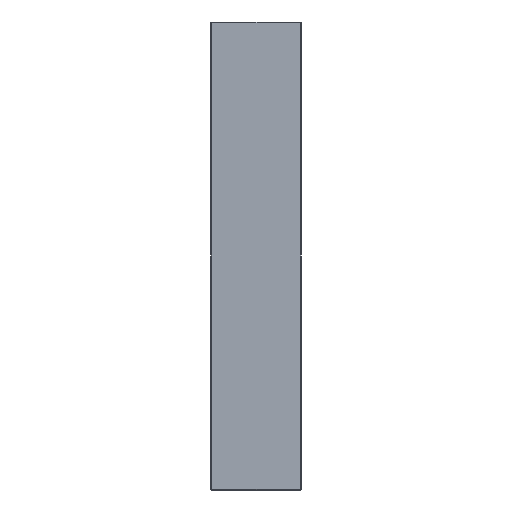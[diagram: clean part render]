
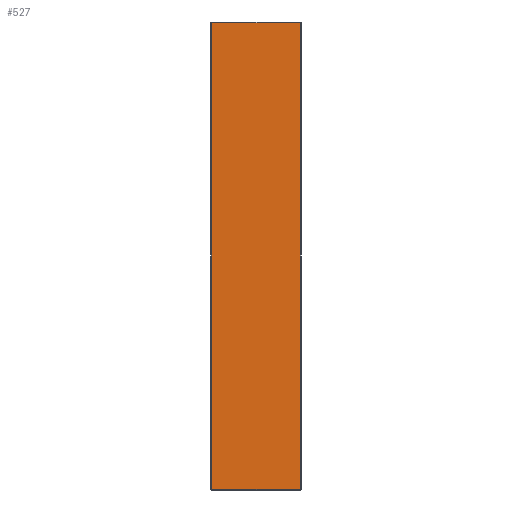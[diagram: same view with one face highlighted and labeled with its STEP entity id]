
A CAD part, left-side view. The second image highlights one B-rep face of the part: STEP entity #527.
In plain terms, the highlighted planar face has unit normal (-1, 0, 0).
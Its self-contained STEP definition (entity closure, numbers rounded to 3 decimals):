
#91 = CARTESIAN_POINT ( 'NONE',  ( -198., 96., 248. ) ) ;
#139 = ORIENTED_EDGE ( 'NONE', *, *, #1395, .T. ) ;
#262 = AXIS2_PLACEMENT_3D ( 'NONE', #91, #921, #1056 ) ;
#324 = VECTOR ( 'NONE', #1417, 1000. ) ;
#372 = VECTOR ( 'NONE', #593, 1000. ) ;
#382 = DIRECTION ( 'NONE',  ( 0., 0., -1. ) ) ;
#445 = PLANE ( 'NONE',  #262 ) ;
#449 = EDGE_CURVE ( 'NONE', #1062, #1850, #1341, .T. ) ;
#467 = ORIENTED_EDGE ( 'NONE', *, *, #496, .T. ) ;
#496 = EDGE_CURVE ( 'NONE', #837, #1062, #1573, .T. ) ;
#527 = ADVANCED_FACE ( 'NONE', ( #1817 ), #445, .F. ) ;
#562 = CARTESIAN_POINT ( 'NONE',  ( -198., 96., -247. ) ) ;
#593 = DIRECTION ( 'NONE',  ( 0., -1., 0. ) ) ;
#634 = VERTEX_POINT ( 'NONE', #1550 ) ;
#817 = LINE ( 'NONE', #1548, #324 ) ;
#820 = ORIENTED_EDGE ( 'NONE', *, *, #449, .T. ) ;
#837 = VERTEX_POINT ( 'NONE', #1757 ) ;
#921 = DIRECTION ( 'NONE',  ( 1., 0., 0. ) ) ;
#927 = VECTOR ( 'NONE', #1370, 1000. ) ;
#939 = EDGE_CURVE ( 'NONE', #634, #837, #1402, .T. ) ;
#1048 = EDGE_LOOP ( 'NONE', ( #139, #1488, #467, #820 ) ) ;
#1056 = DIRECTION ( 'NONE',  ( 0., 0., -1. ) ) ;
#1062 = VERTEX_POINT ( 'NONE', #1295 ) ;
#1225 = CARTESIAN_POINT ( 'NONE',  ( -198., 1., 248. ) ) ;
#1295 = CARTESIAN_POINT ( 'NONE',  ( -198., 1., -247. ) ) ;
#1310 = CARTESIAN_POINT ( 'NONE',  ( -198., 95., 248. ) ) ;
#1341 = LINE ( 'NONE', #1225, #927 ) ;
#1370 = DIRECTION ( 'NONE',  ( 0., 0., 1. ) ) ;
#1395 = EDGE_CURVE ( 'NONE', #1850, #634, #817, .T. ) ;
#1402 = LINE ( 'NONE', #1310, #1768 ) ;
#1417 = DIRECTION ( 'NONE',  ( 0., 1., 0. ) ) ;
#1488 = ORIENTED_EDGE ( 'NONE', *, *, #939, .T. ) ;
#1548 = CARTESIAN_POINT ( 'NONE',  ( -198., 96., 247. ) ) ;
#1550 = CARTESIAN_POINT ( 'NONE',  ( -198., 95., 247. ) ) ;
#1573 = LINE ( 'NONE', #562, #372 ) ;
#1580 = CARTESIAN_POINT ( 'NONE',  ( -198., 1., 247. ) ) ;
#1757 = CARTESIAN_POINT ( 'NONE',  ( -198., 95., -247. ) ) ;
#1768 = VECTOR ( 'NONE', #382, 1000. ) ;
#1817 = FACE_OUTER_BOUND ( 'NONE', #1048, .T. ) ;
#1850 = VERTEX_POINT ( 'NONE', #1580 ) ;
